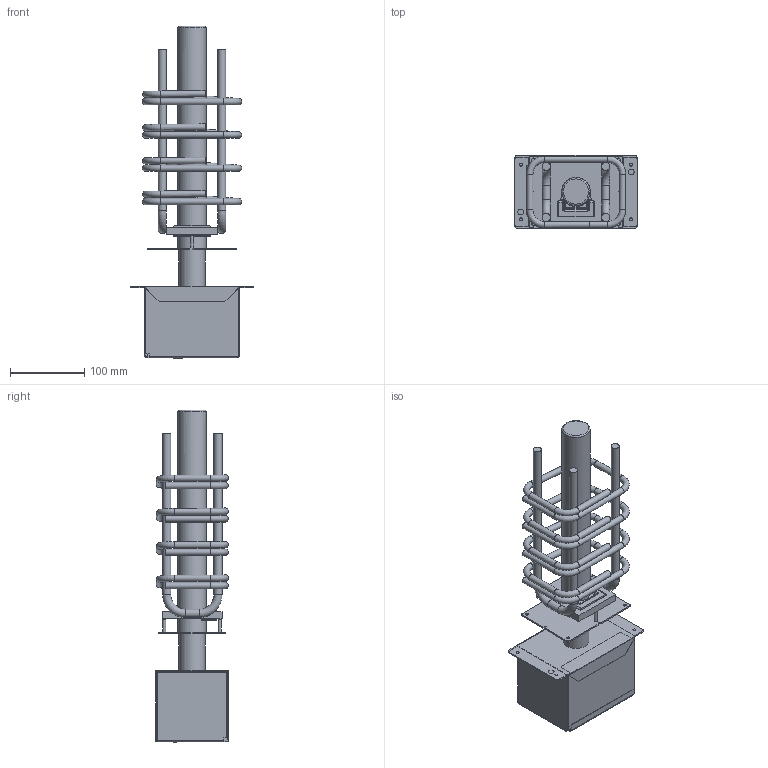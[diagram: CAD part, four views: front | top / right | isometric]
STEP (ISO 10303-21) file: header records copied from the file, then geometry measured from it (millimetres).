
FILE_DESCRIPTION(/* description */ (''),/* implementation_level */ '2;1');
FILE_NAME(/* name */ 'C:\Vault_Lokal\CAD Daten\05 Schallisolation\Fertigungszeichnungen_Standard\Sinton Q\Sinton Q1-J50_Vereinfachen_1.stp',/* time_stamp */ '2023-03-28T07:59:51+02:00',/* author */ ('Markus.niemann'),/* organization */ ('PohlCon GmbH'),/* preprocessor_version */ 'ST-DEVELOPER v18.1',/* originating_system */ 'Autodesk Inventor 2022',/* authorisation */ '');
FILE_SCHEMA (('AUTOMOTIVE_DESIGN { 1 0 10303 214 3 1 1 }'));
Length unit declared in the file: millimetre
Products named in the file (1): Sinton Q1-J50_Vereinfachen_1
Bounding box: 165 x 99 x 448.1 mm (x, y, z)
Volume: 1413758.2 mm3; surface area: 330386.6 mm2
Topology: 6 solids, 6 shells, 384 faces, 978 edges, 608 vertices
Faces by surface type: plane 187, cylinder 138, torus 39, sphere 16, bspline 4
Full cylindrical faces by diameter (mm): 3.9 x2, 4 x10, 8 x2, 8.5 x24, 11 x4, 35.2 x1, 38 x1, 38.5 x1
Entity records: 12250 total; most frequent: CARTESIAN_POINT 2177, DIRECTION 2099, ORIENTED_EDGE 1948, EDGE_CURVE 974, AXIS2_PLACEMENT_3D 760, VERTEX_POINT 608, LINE 579, VECTOR 579
